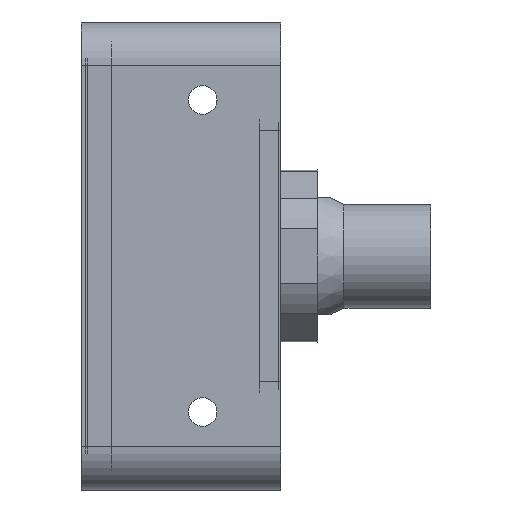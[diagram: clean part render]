
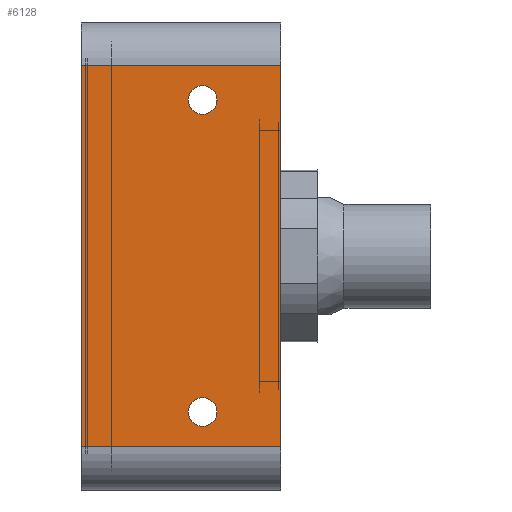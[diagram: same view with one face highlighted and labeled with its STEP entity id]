
A CAD part, left-side view. The second image highlights one B-rep face of the part: STEP entity #6128.
In plain terms, the highlighted planar face has unit normal (-1, 0, 0).
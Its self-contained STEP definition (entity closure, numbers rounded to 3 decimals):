
#121 = DIRECTION ( 'NONE',  ( 0., 1., 0. ) ) ;
#220 = VERTEX_POINT ( 'NONE', #5099 ) ;
#427 = LINE ( 'NONE', #5139, #10648 ) ;
#466 = DIRECTION ( 'NONE',  ( 0., 0., 1. ) ) ;
#485 = LINE ( 'NONE', #12023, #11908 ) ;
#486 = DIRECTION ( 'NONE',  ( 0., -1., 0. ) ) ;
#757 = VERTEX_POINT ( 'NONE', #10828 ) ;
#803 = LINE ( 'NONE', #9612, #12531 ) ;
#962 = VERTEX_POINT ( 'NONE', #8120 ) ;
#964 = CARTESIAN_POINT ( 'NONE',  ( -155., -14., -18. ) ) ;
#1128 = EDGE_CURVE ( 'NONE', #3187, #757, #427, .T. ) ;
#1588 = CARTESIAN_POINT ( 'NONE',  ( -155., -23., -22. ) ) ;
#1814 = DIRECTION ( 'NONE',  ( 0., 0., 1. ) ) ;
#1970 = DIRECTION ( 'NONE',  ( 1., 0., 0. ) ) ;
#2016 = EDGE_LOOP ( 'NONE', ( #5705, #3902, #11929, #3803 ) ) ;
#2182 = DIRECTION ( 'NONE',  ( 0., 0., 1. ) ) ;
#2442 = FACE_OUTER_BOUND ( 'NONE', #2016, .T. ) ;
#2477 = EDGE_CURVE ( 'NONE', #220, #962, #10851, .T. ) ;
#2795 = PLANE ( 'NONE',  #7731 ) ;
#2906 = EDGE_CURVE ( 'NONE', #3187, #962, #485, .T. ) ;
#3127 = ORIENTED_EDGE ( 'NONE', *, *, #5394, .F. ) ;
#3187 = VERTEX_POINT ( 'NONE', #5781 ) ;
#3378 = CARTESIAN_POINT ( 'NONE',  ( -155., -14., 18. ) ) ;
#3803 = ORIENTED_EDGE ( 'NONE', *, *, #4320, .T. ) ;
#3902 = ORIENTED_EDGE ( 'NONE', *, *, #2906, .T. ) ;
#4297 = CARTESIAN_POINT ( 'NONE',  ( -155., -14., -16.35 ) ) ;
#4305 = VECTOR ( 'NONE', #9397, 1000. ) ;
#4320 = EDGE_CURVE ( 'NONE', #220, #757, #803, .T. ) ;
#4499 = VERTEX_POINT ( 'NONE', #4297 ) ;
#4576 = FACE_BOUND ( 'NONE', #4599, .T. ) ;
#4599 = EDGE_LOOP ( 'NONE', ( #3127 ) ) ;
#5099 = CARTESIAN_POINT ( 'NONE',  ( -155., -23., 22. ) ) ;
#5139 = CARTESIAN_POINT ( 'NONE',  ( -155., 0., 27. ) ) ;
#5394 = EDGE_CURVE ( 'NONE', #4499, #4499, #12650, .T. ) ;
#5705 = ORIENTED_EDGE ( 'NONE', *, *, #1128, .F. ) ;
#5781 = CARTESIAN_POINT ( 'NONE',  ( -155., 0., -22. ) ) ;
#5995 = AXIS2_PLACEMENT_3D ( 'NONE', #964, #7647, #1814 ) ;
#6128 = ADVANCED_FACE ( 'NONE', ( #12340, #4576, #2442 ), #2795, .F. ) ;
#7647 = DIRECTION ( 'NONE',  ( -1., 0., 0. ) ) ;
#7731 = AXIS2_PLACEMENT_3D ( 'NONE', #9625, #1970, #10777 ) ;
#7824 = VERTEX_POINT ( 'NONE', #10090 ) ;
#8119 = EDGE_CURVE ( 'NONE', #7824, #7824, #8861, .T. ) ;
#8120 = CARTESIAN_POINT ( 'NONE',  ( -155., -23., -22. ) ) ;
#8861 = CIRCLE ( 'NONE', #12612, 1.65 ) ;
#9397 = DIRECTION ( 'NONE',  ( 0., 0., -1. ) ) ;
#9612 = CARTESIAN_POINT ( 'NONE',  ( -155., 0., 22. ) ) ;
#9625 = CARTESIAN_POINT ( 'NONE',  ( -155., 0., 27. ) ) ;
#10090 = CARTESIAN_POINT ( 'NONE',  ( -155., -14., 19.65 ) ) ;
#10648 = VECTOR ( 'NONE', #2182, 1000. ) ;
#10677 = ORIENTED_EDGE ( 'NONE', *, *, #8119, .F. ) ;
#10777 = DIRECTION ( 'NONE',  ( 0., 0., -1. ) ) ;
#10828 = CARTESIAN_POINT ( 'NONE',  ( -155., 0., 22. ) ) ;
#10851 = LINE ( 'NONE', #1588, #4305 ) ;
#11081 = DIRECTION ( 'NONE',  ( -1., 0., 0. ) ) ;
#11908 = VECTOR ( 'NONE', #486, 1000. ) ;
#11929 = ORIENTED_EDGE ( 'NONE', *, *, #2477, .F. ) ;
#12023 = CARTESIAN_POINT ( 'NONE',  ( -155., 0., -22. ) ) ;
#12340 = FACE_BOUND ( 'NONE', #12457, .T. ) ;
#12457 = EDGE_LOOP ( 'NONE', ( #10677 ) ) ;
#12531 = VECTOR ( 'NONE', #121, 1000. ) ;
#12612 = AXIS2_PLACEMENT_3D ( 'NONE', #3378, #11081, #466 ) ;
#12650 = CIRCLE ( 'NONE', #5995, 1.65 ) ;
